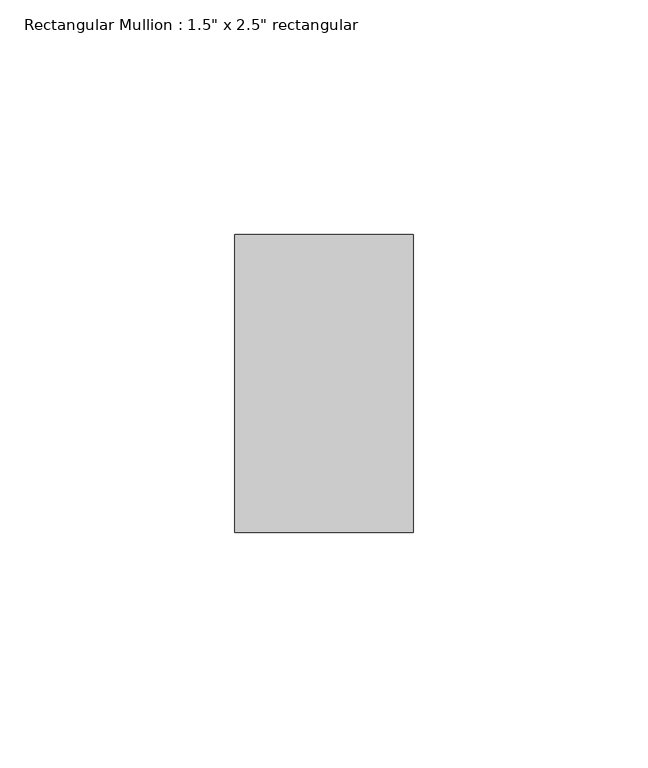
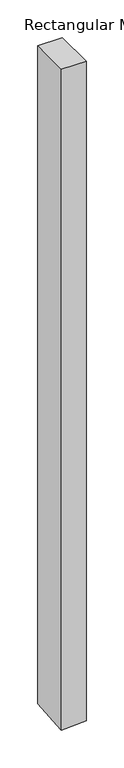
"""IFC4 building model written with IfcOpenShell, lengths in millimetres: member geometry."""

from ifc_helpers import new_model, si_unit, origin, place, context, project, spatial, faceted_brep, source, transform, mapped, element, save


def member_73d7b1ca(model_context):
    return source(origin(), model_context, "Body", "Brep", [
        faceted_brep([(0.0, 31.75, 0.0), (-38.1, 31.75, 0.0), (-38.1, -31.75, 0.0), (0.0, -31.75, 0.0), (0.0, 31.75, -1067.3245028), (-38.1, 31.75, -1070.0251317), (-38.1, -31.75, -1074.5512221), (0.0, -31.75, -1071.8505933)], [[[0, 1, 2, 3]], [[1, 0, 4, 5]], [[2, 1, 5, 6]], [[3, 2, 6, 7]], [[0, 3, 7, 4]], [[4, 7, 6, 5]]]),
    ])


if __name__ == "__main__":
    model = new_model("IFC4")
    model_context = context("Model", 3, world=origin())
    ifc_project = project(units=[si_unit("LENGTHUNIT", "METRE", prefix="MILLI")], contexts=[model_context])
    site = spatial("IfcSite", under=ifc_project)
    building = spatial("IfcBuilding", under=site)
    placement = place(None, origin())
    member_shape = member_73d7b1ca(model_context)
    element("IfcMember", 1, ObjectType="Rectangular Mullion : 1.5\" x 2.5\" rectangular", at=placement, inside=building, context=model_context, shape_type="MappedRepresentation", body=[
        mapped(member_shape, transform((0.0, 0.0, 0.0), x_axis=(1.0, 0.0, 0.0), y_axis=(0.0, 1.0, 0.0), z_axis=(0.0, 0.0, 1.0))),
    ])
    save(model, "model.ifc")
